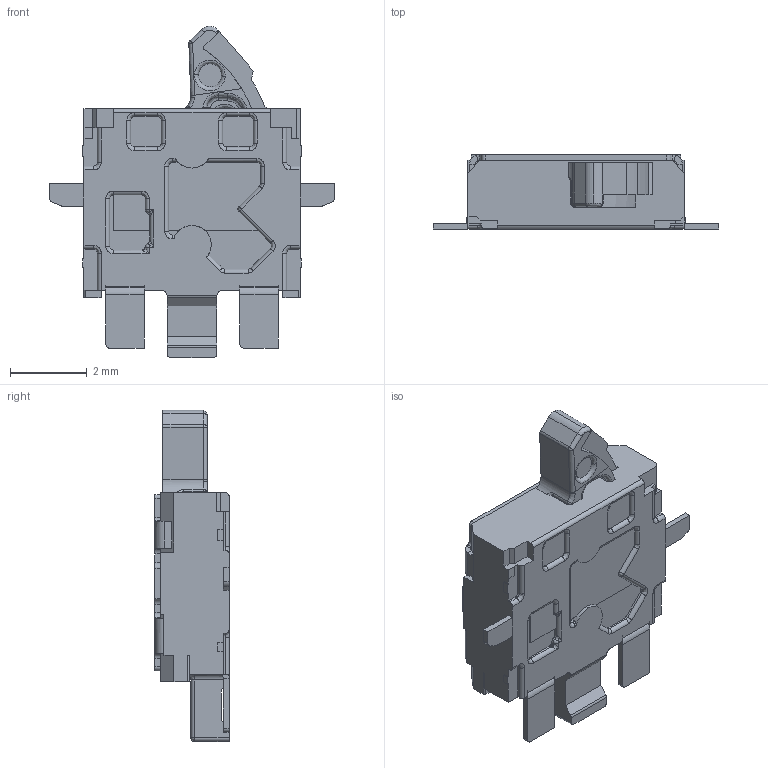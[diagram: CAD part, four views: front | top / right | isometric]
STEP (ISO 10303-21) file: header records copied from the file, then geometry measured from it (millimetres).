
FILE_DESCRIPTION (( 'STEP AP214' ), '1' );
FILE_NAME ('SPVT210201.STEP', '2011-03-28T08:05:42', ( '' ), ( '' ), 'SwSTEP 2.0', 'SolidWorks 2007', '' );
FILE_SCHEMA (( 'AUTOMOTIVE_DESIGN' ));
Length unit declared in the file: millimetre
Products named in the file (1): SPVT210201
Bounding box: 7.45 x 1.94 x 8.65 mm (x, y, z)
Volume: 55.1 mm3; surface area: 127.8 mm2
Topology: 1 solids, 1 shells, 395 faces, 1062 edges, 661 vertices
Faces by surface type: plane 202, cylinder 129, bspline 57, cone 7
Entity records: 15295 total; most frequent: CARTESIAN_POINT 3882, ORIENTED_EDGE 2108, DIRECTION 1884, EDGE_CURVE 1054, VECTOR 680, LINE 680, VERTEX_POINT 661, AXIS2_PLACEMENT_3D 602
